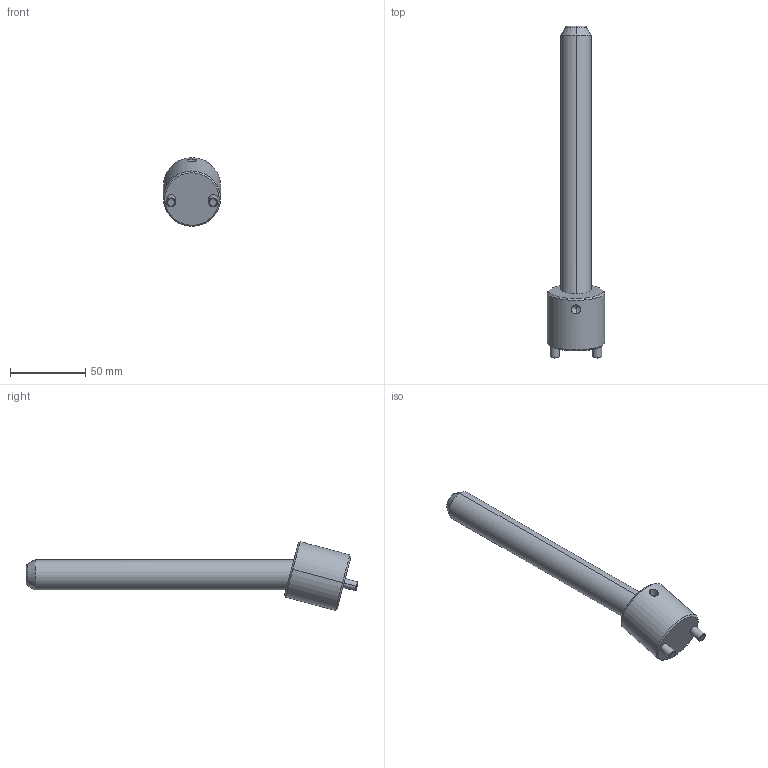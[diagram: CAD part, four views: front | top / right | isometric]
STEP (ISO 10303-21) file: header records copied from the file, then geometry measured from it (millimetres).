
FILE_DESCRIPTION(('CATIA V5 STEP Exchange'),'2;1');
FILE_NAME('C:\Users\Raffaele\Desktop\3D BOLEX\3D FILES CF BOLEX\19-INCLINED ASSEMBLY REF_CI\CI1520175.stp','2019-06-21T14:17:23+00:00',('none'),('none'),'CATIA Version 5 Release 20 GA (IN-10)','CATIA V5 STEP AP203','none');
FILE_SCHEMA(('CONFIG_CONTROL_DESIGN'));
Length unit declared in the file: millimetre
Products named in the file (1): CI1520175
Assembly tree (2 placements, depth 2):
  CI1520175
    #58
    #572
Bounding box: 38 x 220.15 x 45.51 mm (x, y, z)
Volume: 95093.1 mm3; surface area: 22145.9 mm2
Topology: 2 solids, 2 shells, 39 faces, 82 edges, 47 vertices
Faces by surface type: cone 14, cylinder 14, plane 7, torus 4
Entity records: 1494 total; most frequent: CARTESIAN_POINT 635, ORIENTED_EDGE 160, DIRECTION 145, EDGE_CURVE 80, AXIS2_PLACEMENT_3D 72, VERTEX_POINT 47, EDGE_LOOP 43, ADVANCED_FACE 39
